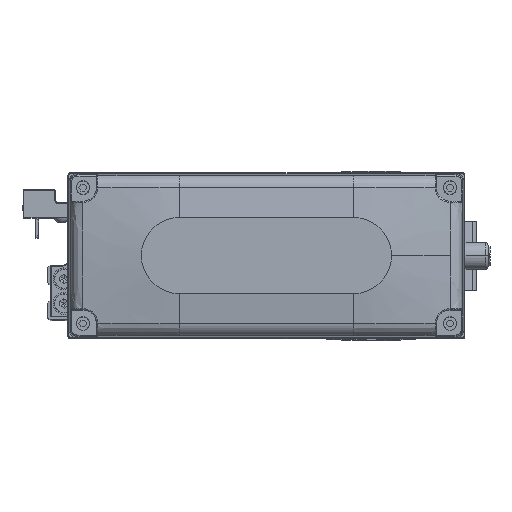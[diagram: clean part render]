
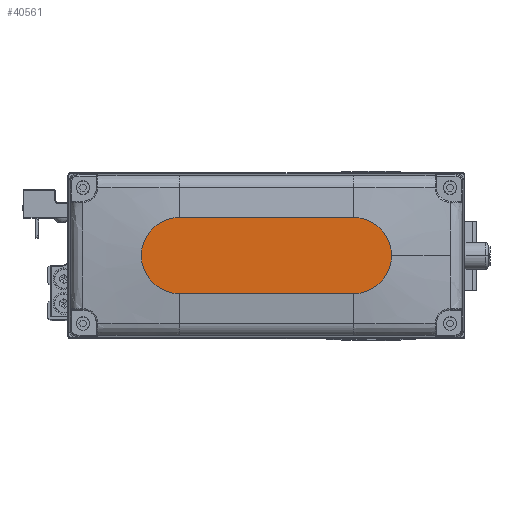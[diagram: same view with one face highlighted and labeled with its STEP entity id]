
A CAD part, top view. The second image highlights one B-rep face of the part: STEP entity #40561.
In plain terms, the highlighted planar face has unit normal (0, 0, 1).
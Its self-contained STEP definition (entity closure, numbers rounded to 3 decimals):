
#180 = VERTEX_POINT ( 'NONE', #21386 ) ;
#911 = EDGE_CURVE ( 'NONE', #21483, #23418, #16375, .T. ) ;
#2484 = DIRECTION ( 'NONE',  ( 1., 0., 0. ) ) ;
#3060 = EDGE_CURVE ( 'NONE', #16860, #21483, #4037, .T. ) ;
#4037 = LINE ( 'NONE', #17364, #21981 ) ;
#4378 = DIRECTION ( 'NONE',  ( 0., 0., 1. ) ) ;
#4604 = EDGE_CURVE ( 'NONE', #23418, #180, #19089, .T. ) ;
#4678 = CARTESIAN_POINT ( 'NONE',  ( 0., 0., 35. ) ) ;
#5842 = CARTESIAN_POINT ( 'NONE',  ( -32., -14., 35. ) ) ;
#6446 = DIRECTION ( 'NONE',  ( 1., 0., 0. ) ) ;
#7472 = CARTESIAN_POINT ( 'NONE',  ( 32., 0., 35. ) ) ;
#7861 = CARTESIAN_POINT ( 'NONE',  ( 32., 14., 35. ) ) ;
#11104 = ORIENTED_EDGE ( 'NONE', *, *, #14349, .T. ) ;
#14349 = EDGE_CURVE ( 'NONE', #180, #30800, #15506, .T. ) ;
#14425 = VECTOR ( 'NONE', #2484, 1000. ) ;
#14538 = ORIENTED_EDGE ( 'NONE', *, *, #24493, .T. ) ;
#15506 = CIRCLE ( 'NONE', #39968, 14. ) ;
#16375 = CIRCLE ( 'NONE', #40828, 14. ) ;
#16860 = VERTEX_POINT ( 'NONE', #7861 ) ;
#17336 = ORIENTED_EDGE ( 'NONE', *, *, #911, .T. ) ;
#17364 = CARTESIAN_POINT ( 'NONE',  ( -32., 14., 35. ) ) ;
#17709 = DIRECTION ( 'NONE',  ( 1., 0., 0. ) ) ;
#18002 = DIRECTION ( 'NONE',  ( 0., 0., 1. ) ) ;
#19089 = LINE ( 'NONE', #32427, #14425 ) ;
#19568 = CARTESIAN_POINT ( 'NONE',  ( 46., 0., 35. ) ) ;
#20797 = DIRECTION ( 'NONE',  ( 0., 0., 1. ) ) ;
#21094 = CIRCLE ( 'NONE', #26659, 14. ) ;
#21283 = FACE_OUTER_BOUND ( 'NONE', #23741, .T. ) ;
#21386 = CARTESIAN_POINT ( 'NONE',  ( 32., -14., 35. ) ) ;
#21483 = VERTEX_POINT ( 'NONE', #42456 ) ;
#21981 = VECTOR ( 'NONE', #30689, 1000. ) ;
#23047 = CARTESIAN_POINT ( 'NONE',  ( -32., 0., 35. ) ) ;
#23418 = VERTEX_POINT ( 'NONE', #5842 ) ;
#23741 = EDGE_LOOP ( 'NONE', ( #36870, #17336, #34125, #11104, #14538 ) ) ;
#24493 = EDGE_CURVE ( 'NONE', #30800, #16860, #21094, .T. ) ;
#26659 = AXIS2_PLACEMENT_3D ( 'NONE', #7472, #20797, #34126 ) ;
#30689 = DIRECTION ( 'NONE',  ( -1., 0., 0. ) ) ;
#30800 = VERTEX_POINT ( 'NONE', #19568 ) ;
#31338 = DIRECTION ( 'NONE',  ( 1., 0., 0. ) ) ;
#32427 = CARTESIAN_POINT ( 'NONE',  ( -32., -14., 35. ) ) ;
#33860 = AXIS2_PLACEMENT_3D ( 'NONE', #4678, #18002, #31338 ) ;
#34125 = ORIENTED_EDGE ( 'NONE', *, *, #4604, .T. ) ;
#34126 = DIRECTION ( 'NONE',  ( 1., 0., 0. ) ) ;
#34318 = CARTESIAN_POINT ( 'NONE',  ( 32., 0., 35. ) ) ;
#34628 = PLANE ( 'NONE',  #33860 ) ;
#36389 = DIRECTION ( 'NONE',  ( 0., 0., 1. ) ) ;
#36870 = ORIENTED_EDGE ( 'NONE', *, *, #3060, .T. ) ;
#39968 = AXIS2_PLACEMENT_3D ( 'NONE', #34318, #4378, #17709 ) ;
#40561 = ADVANCED_FACE ( 'NONE', ( #21283 ), #34628, .T. ) ;
#40828 = AXIS2_PLACEMENT_3D ( 'NONE', #23047, #36389, #6446 ) ;
#42456 = CARTESIAN_POINT ( 'NONE',  ( -32., 14., 35. ) ) ;
